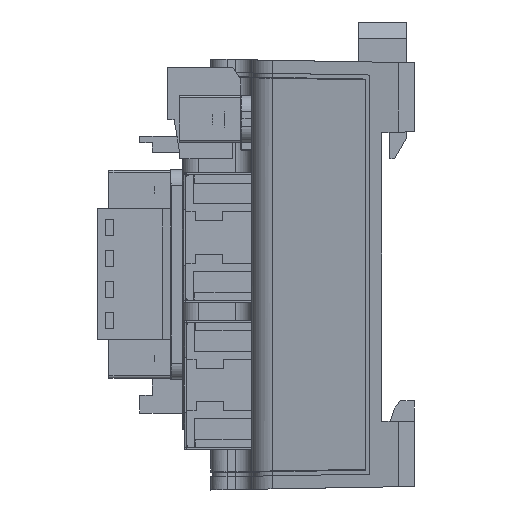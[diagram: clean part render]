
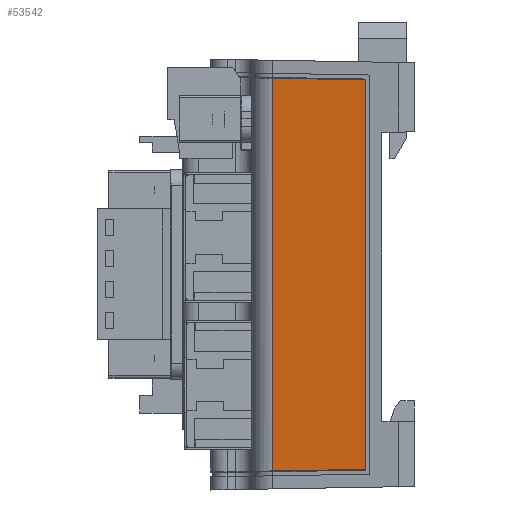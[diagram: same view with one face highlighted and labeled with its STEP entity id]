
A CAD part, left-side view. The second image highlights one B-rep face of the part: STEP entity #53542.
In plain terms, the highlighted planar face has unit normal (-0.991, 0.138, 0).
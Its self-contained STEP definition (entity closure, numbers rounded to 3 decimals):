
#985 = CARTESIAN_POINT ( 'NONE',  ( 0.556, 4., -47.9 ) ) ;
#3483 = LINE ( 'NONE', #54742, #46897 ) ;
#4653 = CARTESIAN_POINT ( 'NONE',  ( 0., 0.003, -47.83 ) ) ;
#6623 = VERTEX_POINT ( 'NONE', #73201 ) ;
#6856 = ORIENTED_EDGE ( 'NONE', *, *, #15943, .F. ) ;
#8195 = CARTESIAN_POINT ( 'NONE',  ( 0.556, 4., -48. ) ) ;
#11754 = EDGE_LOOP ( 'NONE', ( #6856, #62119, #47516, #20727 ) ) ;
#12325 = LINE ( 'NONE', #8195, #40696 ) ;
#14840 = VERTEX_POINT ( 'NONE', #985 ) ;
#15943 = EDGE_CURVE ( 'NONE', #6623, #21403, #3483, .T. ) ;
#17760 = EDGE_CURVE ( 'NONE', #14840, #71284, #68830, .T. ) ;
#20353 = DIRECTION ( 'NONE',  ( 0.138, 0.99, 0. ) ) ;
#20727 = ORIENTED_EDGE ( 'NONE', *, *, #43985, .T. ) ;
#20783 = DIRECTION ( 'NONE',  ( -0.138, -0.99, -0.017 ) ) ;
#21403 = VERTEX_POINT ( 'NONE', #42752 ) ;
#26779 = DIRECTION ( 'NONE',  ( 0., 0., -1. ) ) ;
#30980 = DIRECTION ( 'NONE',  ( 0., 0., 1. ) ) ;
#33102 = DIRECTION ( 'NONE',  ( 0.138, 0.99, -0.017 ) ) ;
#33591 = LINE ( 'NONE', #55059, #45121 ) ;
#40696 = VECTOR ( 'NONE', #30980, 1000. ) ;
#42752 = CARTESIAN_POINT ( 'NONE',  ( 0.556, 4., -0.1 ) ) ;
#43985 = EDGE_CURVE ( 'NONE', #14840, #21403, #12325, .T. ) ;
#44146 = EDGE_CURVE ( 'NONE', #6623, #71284, #33591, .T. ) ;
#45121 = VECTOR ( 'NONE', #26779, 1000. ) ;
#46897 = VECTOR ( 'NONE', #20783, 1000. ) ;
#47054 = CARTESIAN_POINT ( 'NONE',  ( 2.141, 15.413, -48.099 ) ) ;
#47516 = ORIENTED_EDGE ( 'NONE', *, *, #17760, .F. ) ;
#48589 = PLANE ( 'NONE',  #65710 ) ;
#53542 = ADVANCED_FACE ( 'NONE', ( #58183 ), #48589, .F. ) ;
#53750 = VECTOR ( 'NONE', #33102, 1000. ) ;
#54299 = DIRECTION ( 'NONE',  ( 0.99, -0.138, 0. ) ) ;
#54742 = CARTESIAN_POINT ( 'NONE',  ( -0.114, -0.819, -0.184 ) ) ;
#55059 = CARTESIAN_POINT ( 'NONE',  ( 2.141, 15.413, -48. ) ) ;
#58183 = FACE_OUTER_BOUND ( 'NONE', #11754, .T. ) ;
#62119 = ORIENTED_EDGE ( 'NONE', *, *, #44146, .T. ) ;
#65456 = CARTESIAN_POINT ( 'NONE',  ( 0., 0., -48. ) ) ;
#65710 = AXIS2_PLACEMENT_3D ( 'NONE', #65456, #54299, #20353 ) ;
#68830 = LINE ( 'NONE', #4653, #53750 ) ;
#71284 = VERTEX_POINT ( 'NONE', #47054 ) ;
#73201 = CARTESIAN_POINT ( 'NONE',  ( 2.141, 15.413, 0.099 ) ) ;
